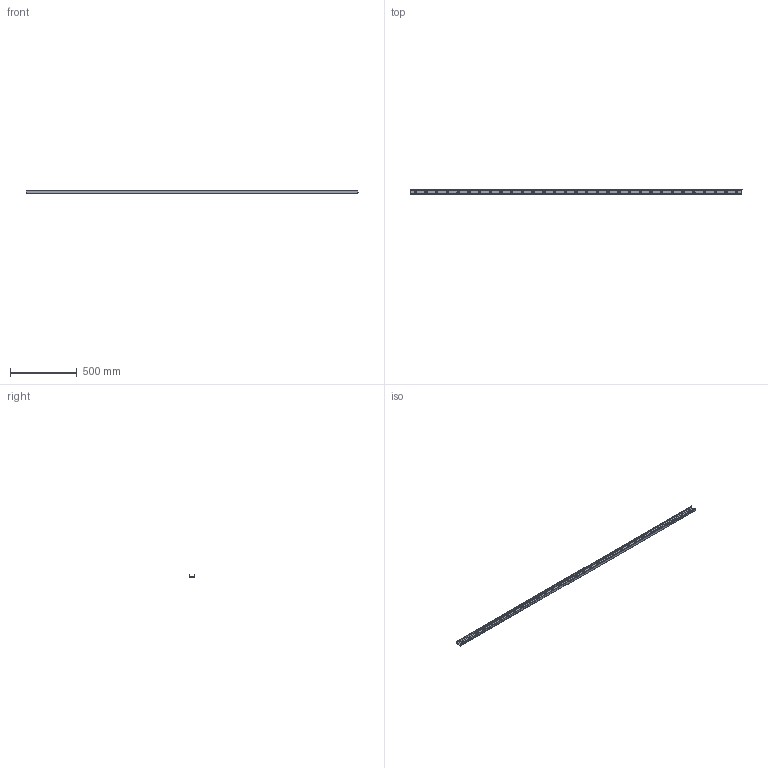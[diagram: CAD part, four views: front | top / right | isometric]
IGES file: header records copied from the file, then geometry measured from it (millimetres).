
Start section: SolidWorks IGES file using analytic representation for surfaces
Global section: file name: C:\Users\IanO\Desktop\43\L1943.ULC43_v2_20180121_IGES\L1943.ULC43-2480.igs; native system: SolidWorks 2017; preprocessor: SolidWorks 2017; author: IanO; date: 190121.085019; units: millimetre
Bounding box: 2480 x 43 x 21 mm (x, y, z)
Surface area: 389024 mm2 (no closed solid volume)
Topology: 0 solids, 0 shells, 181 faces, 4758 edges, 4758 vertices
Faces by surface type: revolution 137, bspline 44
